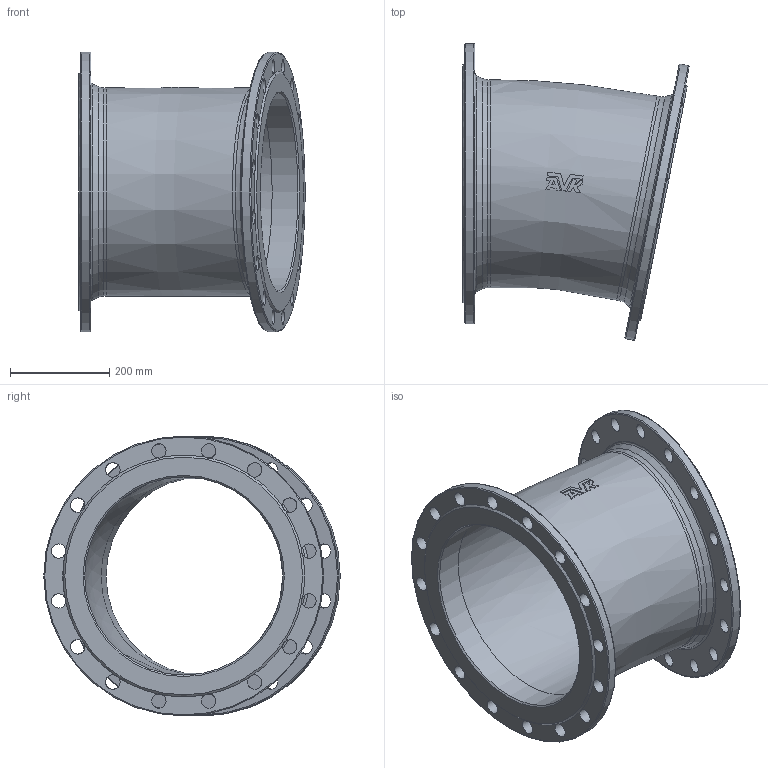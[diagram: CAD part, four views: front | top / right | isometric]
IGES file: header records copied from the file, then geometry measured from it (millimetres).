
Start section: SolidWorks IGES file using analytic representation for surfaces
Global section: file name: \\avksan2\techshare\PBM outline export from Enovia\O_712_0110_DN400_0X_REV01.igs; native system: SolidWorks 2022; preprocessor: SolidWorks 2022; author: pbm; date: 240815.110746; units: millimetre
Bounding box: 456.88 x 598.41 x 565 mm (x, y, z)
Surface area: 1528150.9 mm2 (no closed solid volume)
Topology: 0 solids, 0 shells, 101 faces, 624 edges, 570 vertices
Faces by surface type: revolution 60, bspline 41
